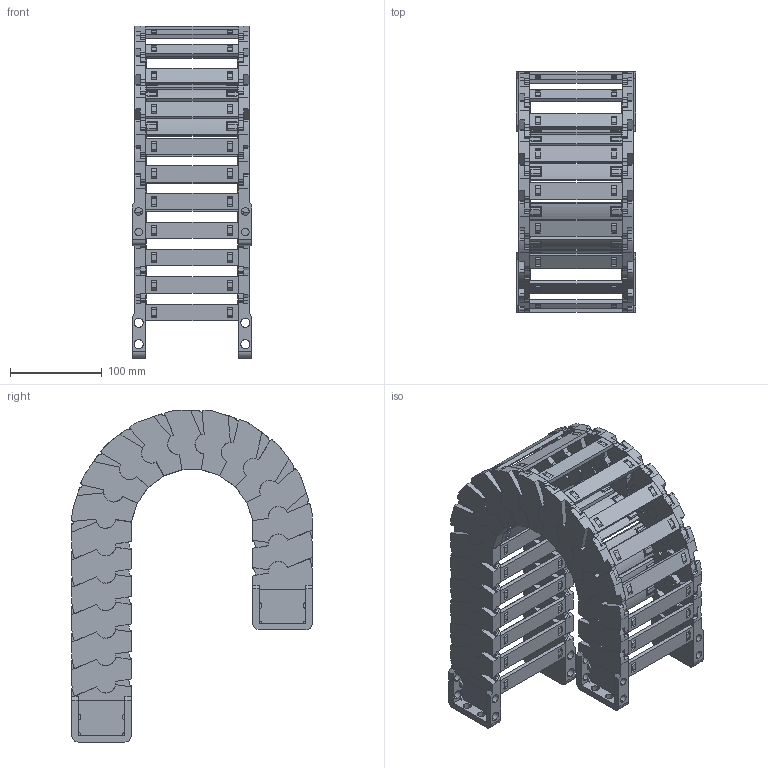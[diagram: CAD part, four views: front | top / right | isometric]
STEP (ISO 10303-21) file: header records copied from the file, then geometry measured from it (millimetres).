
FILE_DESCRIPTION((''),'2;1');
FILE_NAME('JY-52X100-R100_ASM','2022-05-06T09:06:11',('admin'),(''),'CREO PARAMETRIC BY PTC INC, 2021164','CREO PARAMETRIC BY PTC INC, 2021164','');
FILE_SCHEMA(('CONFIG_CONTROL_DESIGN','GEOMETRIC_VALIDATION_PROPERTIES_MIM'));
Length unit declared in the file: millimetre
Products named in the file (11): 52XL-L; 42-52XL-YP; 52XL-R; ASM0001_ASM; 52-LTT-A-L; 52-LTT-A-R; 52XL-LTT-A_ASM; 52-LTT-B-L; 52-LTT-B-R; 52XL-LTT-B_ASM; JY-52X100-R100_ASM
Assembly tree (31 placements, depth 3):
  JY-52X100-R100_ASM
    ASM0001_ASM  x17
      52XL-L
      42-52XL-YP
      52XL-R
    52XL-LTT-A_ASM
      52-LTT-A-L
      42-52XL-YP  x2
      52-LTT-A-R
    52XL-LTT-B_ASM
      52-LTT-B-L
      42-52XL-YP  x2
      52-LTT-B-R
Bounding box: 130.5 x 262.77 x 362.55 mm (x, y, z)
Volume: 1155736.3 mm3; surface area: 579989.6 mm2
Topology: 76 solids, 76 shells, 3900 faces, 11806 edges, 8056 vertices
Faces by surface type: plane 2770, cylinder 842, cone 288
Entity records: 19220 total; most frequent: CARTESIAN_POINT 3441, DIRECTION 3130, ORIENTED_EDGE 3124, EDGE_CURVE 1562, VECTOR 1074, LINE 1074, VERTEX_POINT 1056, AXIS2_PLACEMENT_3D 1028
